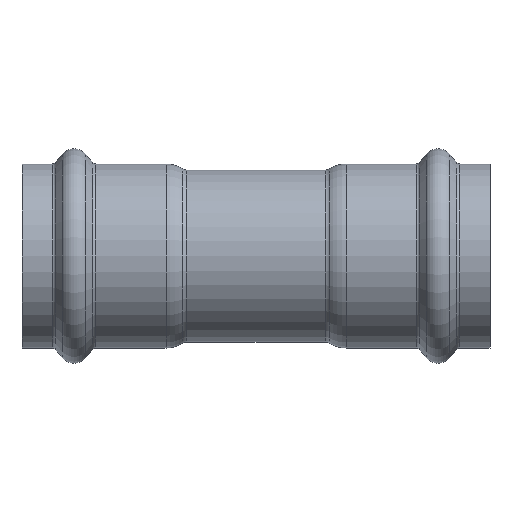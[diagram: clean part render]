
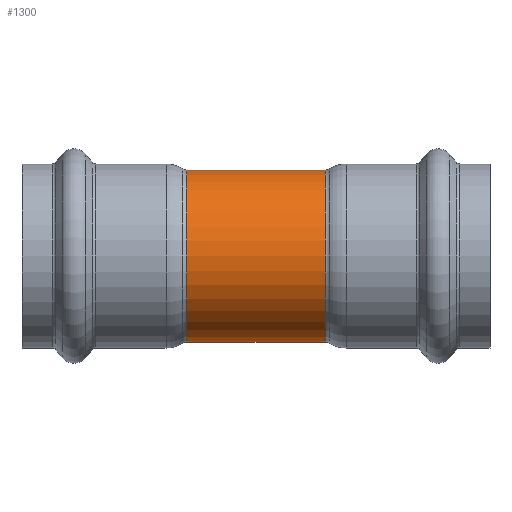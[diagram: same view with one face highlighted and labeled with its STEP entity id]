
A CAD part, front view. The second image highlights one B-rep face of the part: STEP entity #1300.
In plain terms, the highlighted cylindrical face has radius 21.5 mm (diameter 43 mm), a partial arc.
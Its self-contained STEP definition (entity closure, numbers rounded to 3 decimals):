
#161 = CARTESIAN_POINT ( 'NONE',  ( -17.486, 0., -21.5 ) ) ;
#232 = VERTEX_POINT ( 'NONE', #3954 ) ;
#472 = DIRECTION ( 'NONE',  ( -1., 0., 0. ) ) ;
#757 = CARTESIAN_POINT ( 'NONE',  ( -17.486, 0., 21.5 ) ) ;
#800 = VECTOR ( 'NONE', #1354, 1000. ) ;
#860 = CARTESIAN_POINT ( 'NONE',  ( 17.289, 0., 0. ) ) ;
#925 = LINE ( 'NONE', #161, #800 ) ;
#1012 = ORIENTED_EDGE ( 'NONE', *, *, #2122, .F. ) ;
#1041 = EDGE_CURVE ( 'NONE', #232, #3190, #4298, .T. ) ;
#1108 = AXIS2_PLACEMENT_3D ( 'NONE', #1660, #472, #4419 ) ;
#1215 = FACE_OUTER_BOUND ( 'NONE', #3083, .T. ) ;
#1259 = VERTEX_POINT ( 'NONE', #1646 ) ;
#1262 = DIRECTION ( 'NONE',  ( 0., 0., 1. ) ) ;
#1286 = EDGE_CURVE ( 'NONE', #1259, #232, #1342, .T. ) ;
#1300 = ADVANCED_FACE ( 'NONE', ( #1215 ), #4251, .T. ) ;
#1342 = CIRCLE ( 'NONE', #3371, 21.5 ) ;
#1354 = DIRECTION ( 'NONE',  ( -1., 0., 0. ) ) ;
#1646 = CARTESIAN_POINT ( 'NONE',  ( 17.289, 0., -21.5 ) ) ;
#1660 = CARTESIAN_POINT ( 'NONE',  ( -17.486, 0., 0. ) ) ;
#1967 = AXIS2_PLACEMENT_3D ( 'NONE', #1974, #4734, #2370 ) ;
#1974 = CARTESIAN_POINT ( 'NONE',  ( -17.289, 0., 0. ) ) ;
#2029 = ORIENTED_EDGE ( 'NONE', *, *, #1041, .T. ) ;
#2122 = EDGE_CURVE ( 'NONE', #3914, #3190, #4352, .T. ) ;
#2370 = DIRECTION ( 'NONE',  ( 0., 0., 1. ) ) ;
#2916 = DIRECTION ( 'NONE',  ( -1., 0., 0. ) ) ;
#3083 = EDGE_LOOP ( 'NONE', ( #4655, #4215, #2029, #1012 ) ) ;
#3144 = VECTOR ( 'NONE', #2916, 1000. ) ;
#3190 = VERTEX_POINT ( 'NONE', #4418 ) ;
#3354 = EDGE_CURVE ( 'NONE', #1259, #3914, #925, .T. ) ;
#3371 = AXIS2_PLACEMENT_3D ( 'NONE', #860, #3642, #1262 ) ;
#3642 = DIRECTION ( 'NONE',  ( -1., 0., 0. ) ) ;
#3905 = CARTESIAN_POINT ( 'NONE',  ( -17.289, 0., -21.5 ) ) ;
#3914 = VERTEX_POINT ( 'NONE', #3905 ) ;
#3954 = CARTESIAN_POINT ( 'NONE',  ( 17.289, 0., 21.5 ) ) ;
#4215 = ORIENTED_EDGE ( 'NONE', *, *, #1286, .T. ) ;
#4251 = CYLINDRICAL_SURFACE ( 'NONE', #1108, 21.5 ) ;
#4298 = LINE ( 'NONE', #757, #3144 ) ;
#4352 = CIRCLE ( 'NONE', #1967, 21.5 ) ;
#4418 = CARTESIAN_POINT ( 'NONE',  ( -17.289, 0., 21.5 ) ) ;
#4419 = DIRECTION ( 'NONE',  ( 0., 0., 1. ) ) ;
#4655 = ORIENTED_EDGE ( 'NONE', *, *, #3354, .F. ) ;
#4734 = DIRECTION ( 'NONE',  ( -1., 0., 0. ) ) ;
